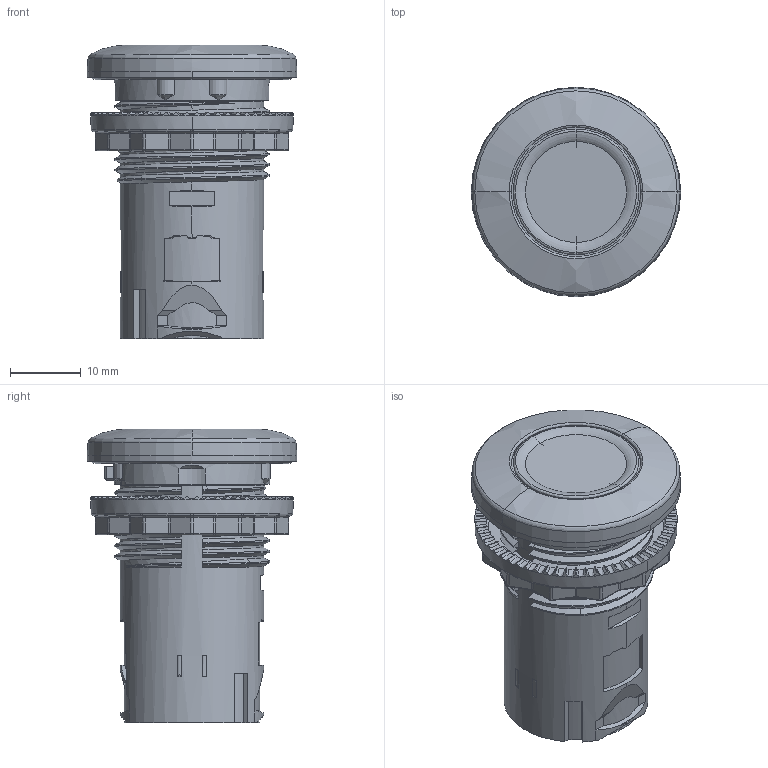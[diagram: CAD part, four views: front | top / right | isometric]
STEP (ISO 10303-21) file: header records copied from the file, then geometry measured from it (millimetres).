
FILE_DESCRIPTION((''),'2;1');
FILE_NAME('40359-475_ASM_ASM','2013-03-21T',('wwhu'),('Rockwell Automation'),'PRO/ENGINEER BY PARAMETRIC TECHNOLOGY CORPORATION, 2010140','PRO/ENGINEER BY PARAMETRIC TECHNOLOGY CORPORATION, 2010140','');
FILE_SCHEMA(('CONFIG_CONTROL_DESIGN'));
Length unit declared in the file: millimetre
Products named in the file (6): 40359-118_1; 40359-119_1; 40359-031_1; 40359-067_1; 40359-475_ASM_1_ASM; 40359-475_ASM_ASM
Assembly tree (5 placements, depth 3):
  40359-475_ASM_ASM
    40359-475_ASM_1_ASM
      40359-118_1
      40359-119_1
      40359-031_1
      40359-067_1
Bounding box: 29.6 x 29.6 x 41.5 mm (x, y, z)
Volume: 21526 mm3; surface area: 10127.6 mm2
Topology: 4 solids, 9 shells, 1005 faces, 2750 edges, 1741 vertices
Faces by surface type: plane 293, bspline 219, cylinder 182, torus 152, cone 135, sphere 20, extrusion 4
Entity records: 43020 total; most frequent: CARTESIAN_POINT 19330, ORIENTED_EDGE 5454, DIRECTION 4293, EDGE_CURVE 2727, VERTEX_POINT 1741, AXIS2_PLACEMENT_3D 1700, EDGE_LOOP 1020, FACE_OUTER_BOUND 1005
